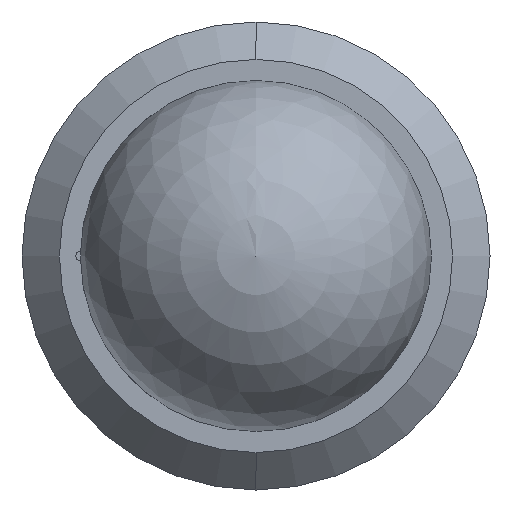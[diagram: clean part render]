
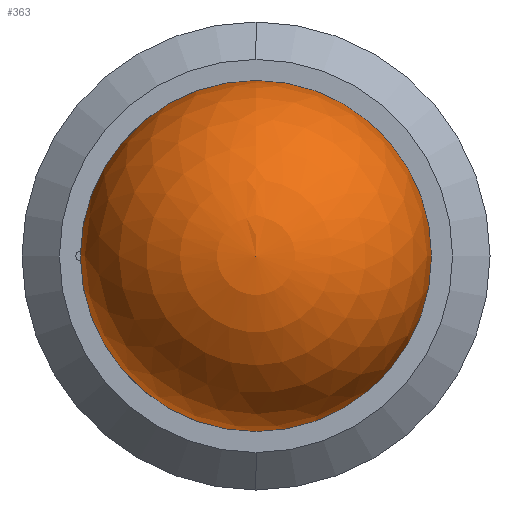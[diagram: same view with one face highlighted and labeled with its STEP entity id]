
A CAD part, left-side view. The second image highlights one B-rep face of the part: STEP entity #363.
In plain terms, the highlighted spherical face has radius 2.381 mm.
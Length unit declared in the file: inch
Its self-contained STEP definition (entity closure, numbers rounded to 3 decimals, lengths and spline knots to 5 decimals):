
#20 = ORIENTED_EDGE ( 'NONE', *, *, #228, .F. ) ;
#78 = VERTEX_POINT ( 'NONE', #658 ) ;
#89 = CARTESIAN_POINT ( 'NONE',  ( 0., -0.09375, 0. ) ) ;
#138 = SPHERICAL_SURFACE ( 'NONE', #230, 0.09375 ) ;
#228 = EDGE_CURVE ( 'NONE', #78, #289, #532, .T. ) ;
#230 = AXIS2_PLACEMENT_3D ( 'NONE', #258, #434, #371 ) ;
#255 = DIRECTION ( 'NONE',  ( 1., 0., 0. ) ) ;
#258 = CARTESIAN_POINT ( 'NONE',  ( 0., 0., 0. ) ) ;
#289 = VERTEX_POINT ( 'NONE', #89 ) ;
#292 = AXIS2_PLACEMENT_3D ( 'NONE', #335, #382, #452 ) ;
#304 = ORIENTED_EDGE ( 'NONE', *, *, #623, .T. ) ;
#335 = CARTESIAN_POINT ( 'NONE',  ( 0., 0., 0. ) ) ;
#363 = ADVANCED_FACE ( 'NONE', ( #476 ), #138, .T. ) ;
#371 = DIRECTION ( 'NONE',  ( 0., 0., 1. ) ) ;
#382 = DIRECTION ( 'NONE',  ( -1., 0., 0. ) ) ;
#394 = CIRCLE ( 'NONE', #292, 0.09375 ) ;
#434 = DIRECTION ( 'NONE',  ( -1., 0., 0. ) ) ;
#452 = DIRECTION ( 'NONE',  ( 0., 0., 1. ) ) ;
#476 = FACE_OUTER_BOUND ( 'NONE', #700, .T. ) ;
#532 = CIRCLE ( 'NONE', #572, 0.09375 ) ;
#572 = AXIS2_PLACEMENT_3D ( 'NONE', #597, #255, #645 ) ;
#597 = CARTESIAN_POINT ( 'NONE',  ( 0., 0., 0. ) ) ;
#623 = EDGE_CURVE ( 'NONE', #78, #289, #394, .T. ) ;
#645 = DIRECTION ( 'NONE',  ( 0., 0., -1. ) ) ;
#658 = CARTESIAN_POINT ( 'NONE',  ( 0., 0.09375, 0. ) ) ;
#700 = EDGE_LOOP ( 'NONE', ( #20, #304 ) ) ;
